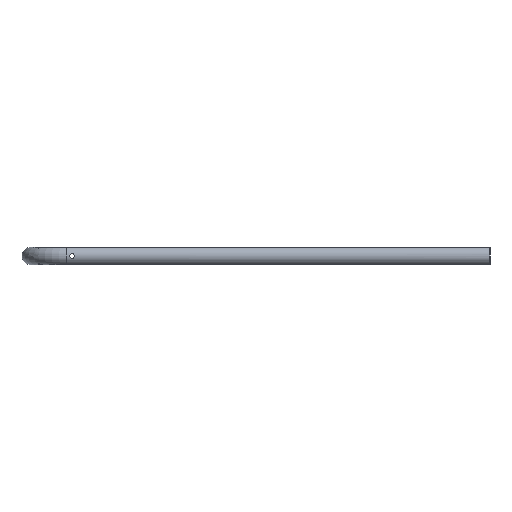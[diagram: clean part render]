
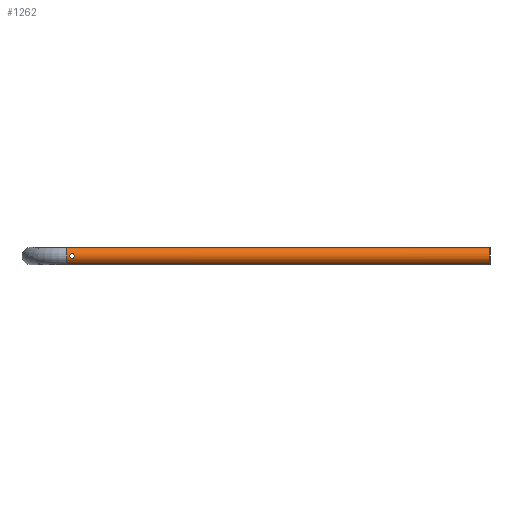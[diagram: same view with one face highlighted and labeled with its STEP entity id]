
A CAD part, left-side view. The second image highlights one B-rep face of the part: STEP entity #1262.
In plain terms, the highlighted cylindrical face has radius 21.2 mm (diameter 42.4 mm), a full revolution.
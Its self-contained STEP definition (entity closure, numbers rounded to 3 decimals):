
#153=CARTESIAN_POINT('',(20.474,1001.2,-5.5));
#154=VERTEX_POINT('',#153);
#155=CARTESIAN_POINT('',(20.474,1001.2,-5.5));
#156=CARTESIAN_POINT('',(20.474,1000.506,-5.5));
#157=CARTESIAN_POINT('',(20.513,999.768,-5.361));
#158=CARTESIAN_POINT('',(20.652,998.414,-4.798));
#159=CARTESIAN_POINT('',(20.749,997.797,-4.376));
#160=CARTESIAN_POINT('',(20.931,996.824,-3.403));
#161=CARTESIAN_POINT('',(21.027,996.402,-2.786));
#162=CARTESIAN_POINT('',(21.163,995.839,-1.432));
#163=CARTESIAN_POINT('',(21.2,995.7,-0.694));
#164=CARTESIAN_POINT('',(21.2,995.7,0.694));
#165=CARTESIAN_POINT('',(21.163,995.839,1.432));
#166=CARTESIAN_POINT('',(21.027,996.402,2.786));
#167=CARTESIAN_POINT('',(20.931,996.824,3.403));
#168=CARTESIAN_POINT('',(20.749,997.797,4.376));
#169=CARTESIAN_POINT('',(20.652,998.414,4.798));
#170=CARTESIAN_POINT('',(20.513,999.768,5.361));
#171=CARTESIAN_POINT('',(20.474,1000.506,5.5));
#172=CARTESIAN_POINT('',(20.474,1001.894,5.5));
#173=CARTESIAN_POINT('',(20.513,1002.632,5.361));
#174=CARTESIAN_POINT('',(20.652,1003.986,4.798));
#175=CARTESIAN_POINT('',(20.749,1004.603,4.376));
#176=CARTESIAN_POINT('',(20.931,1005.576,3.403));
#177=CARTESIAN_POINT('',(21.027,1005.998,2.786));
#178=CARTESIAN_POINT('',(21.163,1006.561,1.432));
#179=CARTESIAN_POINT('',(21.2,1006.7,0.694));
#180=CARTESIAN_POINT('',(21.2,1006.7,-0.694));
#181=CARTESIAN_POINT('',(21.163,1006.561,-1.432));
#182=CARTESIAN_POINT('',(21.027,1005.998,-2.786));
#183=CARTESIAN_POINT('',(20.931,1005.576,-3.403));
#184=CARTESIAN_POINT('',(20.749,1004.603,-4.376));
#185=CARTESIAN_POINT('',(20.652,1003.986,-4.798));
#186=CARTESIAN_POINT('',(20.513,1002.632,-5.361));
#187=CARTESIAN_POINT('',(20.474,1001.894,-5.5));
#188=CARTESIAN_POINT('',(20.474,1001.2,-5.5));
#189=B_SPLINE_CURVE_WITH_KNOTS('',3,(#155,#156,#157,#158,#159,#160,#161,#162,#163,#164,#165,#166,#167,#168,#169,#170,#171,#172,#173,#174,#175,#176,#177,#178,#179,#180,#181,#182,#183,#184,#185,#186,#187,#188),.UNSPECIFIED.,.T.,.U.,(4,2,2,2,2,2,2,2,2,2,2,2,2,2,2,2,4),(0.0,0.208,0.416,0.625,0.833,1.041,1.249,1.457,1.666,1.874,2.082,2.29,2.498,2.707,2.915,3.123,3.331),.UNSPECIFIED.);
#190=EDGE_CURVE('',#154,#154,#189,.T.);
#241=CARTESIAN_POINT('',(-20.474,1001.2,-5.5));
#242=VERTEX_POINT('',#241);
#243=CARTESIAN_POINT('',(-20.474,1001.2,-5.5));
#244=CARTESIAN_POINT('',(-20.474,1001.894,-5.5));
#245=CARTESIAN_POINT('',(-20.513,1002.632,-5.361));
#246=CARTESIAN_POINT('',(-20.652,1003.986,-4.798));
#247=CARTESIAN_POINT('',(-20.749,1004.603,-4.376));
#248=CARTESIAN_POINT('',(-20.931,1005.576,-3.403));
#249=CARTESIAN_POINT('',(-21.027,1005.998,-2.786));
#250=CARTESIAN_POINT('',(-21.163,1006.561,-1.432));
#251=CARTESIAN_POINT('',(-21.2,1006.7,-0.694));
#252=CARTESIAN_POINT('',(-21.2,1006.7,0.694));
#253=CARTESIAN_POINT('',(-21.163,1006.561,1.432));
#254=CARTESIAN_POINT('',(-21.027,1005.998,2.786));
#255=CARTESIAN_POINT('',(-20.931,1005.576,3.403));
#256=CARTESIAN_POINT('',(-20.749,1004.603,4.376));
#257=CARTESIAN_POINT('',(-20.652,1003.986,4.798));
#258=CARTESIAN_POINT('',(-20.513,1002.632,5.361));
#259=CARTESIAN_POINT('',(-20.474,1001.894,5.5));
#260=CARTESIAN_POINT('',(-20.474,1000.506,5.5));
#261=CARTESIAN_POINT('',(-20.513,999.768,5.361));
#262=CARTESIAN_POINT('',(-20.652,998.414,4.798));
#263=CARTESIAN_POINT('',(-20.749,997.797,4.376));
#264=CARTESIAN_POINT('',(-20.931,996.824,3.403));
#265=CARTESIAN_POINT('',(-21.027,996.402,2.786));
#266=CARTESIAN_POINT('',(-21.163,995.839,1.432));
#267=CARTESIAN_POINT('',(-21.2,995.7,0.694));
#268=CARTESIAN_POINT('',(-21.2,995.7,-0.694));
#269=CARTESIAN_POINT('',(-21.163,995.839,-1.432));
#270=CARTESIAN_POINT('',(-21.027,996.402,-2.786));
#271=CARTESIAN_POINT('',(-20.931,996.824,-3.403));
#272=CARTESIAN_POINT('',(-20.749,997.797,-4.376));
#273=CARTESIAN_POINT('',(-20.652,998.414,-4.798));
#274=CARTESIAN_POINT('',(-20.513,999.768,-5.361));
#275=CARTESIAN_POINT('',(-20.474,1000.506,-5.5));
#276=CARTESIAN_POINT('',(-20.474,1001.2,-5.5));
#277=B_SPLINE_CURVE_WITH_KNOTS('',3,(#243,#244,#245,#246,#247,#248,#249,#250,#251,#252,#253,#254,#255,#256,#257,#258,#259,#260,#261,#262,#263,#264,#265,#266,#267,#268,#269,#270,#271,#272,#273,#274,#275,#276),.UNSPECIFIED.,.T.,.U.,(4,2,2,2,2,2,2,2,2,2,2,2,2,2,2,2,4),(0.0,0.208,0.416,0.625,0.833,1.041,1.249,1.457,1.666,1.874,2.082,2.29,2.498,2.707,2.915,3.123,3.331),.UNSPECIFIED.);
#278=EDGE_CURVE('',#242,#242,#277,.T.);
#1225=CARTESIAN_POINT('',(-21.2,1013.5,0.));
#1226=VERTEX_POINT('',#1225);
#1227=CARTESIAN_POINT('',(0.0,1013.5,0.0));
#1228=DIRECTION('',(0.0,-1.0,0.0));
#1229=DIRECTION('',(1.0,0.0,0.0));
#1230=AXIS2_PLACEMENT_3D('',#1227,#1228,#1229);
#1231=CIRCLE('',#1230,21.2);
#1232=EDGE_CURVE('',#1226,#1226,#1231,.T.);
#1237=CARTESIAN_POINT('',(0.0,0.0,0.0));
#1238=DIRECTION('',(0.0,1.0,0.0));
#1239=DIRECTION('',(1.0,0.0,0.0));
#1240=AXIS2_PLACEMENT_3D('',#1237,#1238,#1239);
#1241=CYLINDRICAL_SURFACE('',#1240,21.2);
#1242=ORIENTED_EDGE('',*,*,#1232,.T.);
#1243=EDGE_LOOP('',(#1242));
#1244=FACE_OUTER_BOUND('',#1243,.T.);
#1245=ORIENTED_EDGE('',*,*,#190,.T.);
#1246=EDGE_LOOP('',(#1245));
#1247=FACE_BOUND('',#1246,.T.);
#1248=ORIENTED_EDGE('',*,*,#278,.T.);
#1249=EDGE_LOOP('',(#1248));
#1250=FACE_BOUND('',#1249,.T.);
#1251=CARTESIAN_POINT('',(-21.2,0.0,0.));
#1252=VERTEX_POINT('',#1251);
#1253=CARTESIAN_POINT('',(0.0,0.0,0.0));
#1254=DIRECTION('',(0.0,-1.0,0.0));
#1255=DIRECTION('',(1.0,0.0,0.0));
#1256=AXIS2_PLACEMENT_3D('',#1253,#1254,#1255);
#1257=CIRCLE('',#1256,21.2);
#1258=EDGE_CURVE('',#1252,#1252,#1257,.T.);
#1259=ORIENTED_EDGE('',*,*,#1258,.F.);
#1260=EDGE_LOOP('',(#1259));
#1261=FACE_BOUND('',#1260,.T.);
#1262=ADVANCED_FACE('',(#1244,#1247,#1250,#1261),#1241,.T.);
